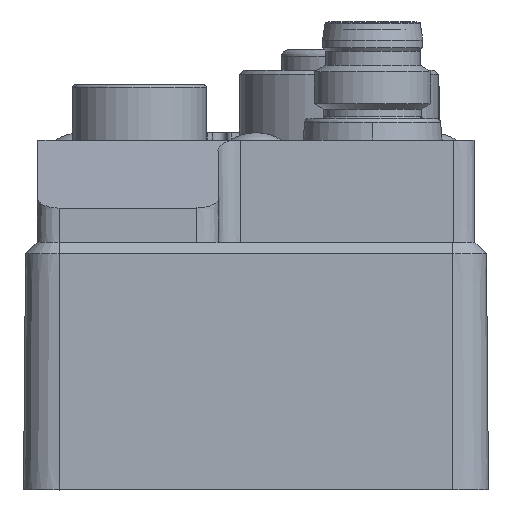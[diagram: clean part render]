
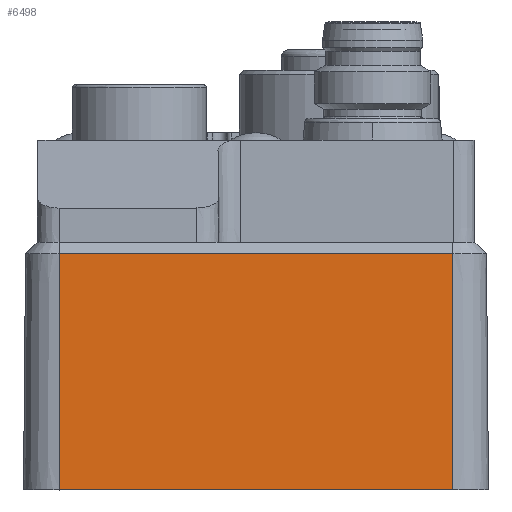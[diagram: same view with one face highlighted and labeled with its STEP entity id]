
A CAD part, front view. The second image highlights one B-rep face of the part: STEP entity #6498.
In plain terms, the highlighted planar face has unit normal (0, -1, 0.009).
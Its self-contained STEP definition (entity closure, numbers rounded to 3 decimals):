
#419 = CARTESIAN_POINT ( 'NONE',  ( 20., 0.142, 16.215 ) ) ;
#437 = VECTOR ( 'NONE', #10021, 1000. ) ;
#504 = VERTEX_POINT ( 'NONE', #8305 ) ;
#594 = EDGE_CURVE ( 'NONE', #17205, #13681, #14674, .T. ) ;
#622 = VECTOR ( 'NONE', #2506, 1000. ) ;
#634 = ORIENTED_EDGE ( 'NONE', *, *, #16571, .F. ) ;
#1091 = VECTOR ( 'NONE', #3012, 1000. ) ;
#2506 = DIRECTION ( 'NONE',  ( 0., -0.009, -1. ) ) ;
#3012 = DIRECTION ( 'NONE',  ( 0., 0.009, 1. ) ) ;
#3164 = LINE ( 'NONE', #9510, #622 ) ;
#4090 = EDGE_CURVE ( 'NONE', #17205, #17188, #4387, .T. ) ;
#4387 = LINE ( 'NONE', #7714, #13297 ) ;
#4391 = DIRECTION ( 'NONE',  ( 0., 1., -0.009 ) ) ;
#4847 = CARTESIAN_POINT ( 'NONE',  ( 20., 0.142, 16.215 ) ) ;
#4907 = LINE ( 'NONE', #4847, #437 ) ;
#5352 = ORIENTED_EDGE ( 'NONE', *, *, #594, .F. ) ;
#5427 = FACE_OUTER_BOUND ( 'NONE', #5471, .T. ) ;
#5471 = EDGE_LOOP ( 'NONE', ( #5352, #14627, #12293, #634 ) ) ;
#5759 = PLANE ( 'NONE',  #15190 ) ;
#6353 = CARTESIAN_POINT ( 'NONE',  ( -13.5, 0., 0. ) ) ;
#6498 = ADVANCED_FACE ( 'NONE', ( #5427 ), #5759, .F. ) ;
#7714 = CARTESIAN_POINT ( 'NONE',  ( 15.948, 0., 0. ) ) ;
#8305 = CARTESIAN_POINT ( 'NONE',  ( 13.5, 0.142, 16.215 ) ) ;
#9039 = CARTESIAN_POINT ( 'NONE',  ( 13.5, 0., 0. ) ) ;
#9510 = CARTESIAN_POINT ( 'NONE',  ( 13.5, -4354.707, -499000. ) ) ;
#10021 = DIRECTION ( 'NONE',  ( 1., 0., 0. ) ) ;
#11426 = CARTESIAN_POINT ( 'NONE',  ( -13.5, 0.142, 16.215 ) ) ;
#11501 = EDGE_CURVE ( 'NONE', #504, #17188, #3164, .T. ) ;
#12293 = ORIENTED_EDGE ( 'NONE', *, *, #11501, .F. ) ;
#12693 = DIRECTION ( 'NONE',  ( 0., 0.009, 1. ) ) ;
#13106 = DIRECTION ( 'NONE',  ( 1., 0., 0. ) ) ;
#13297 = VECTOR ( 'NONE', #13106, 1000. ) ;
#13681 = VERTEX_POINT ( 'NONE', #11426 ) ;
#14627 = ORIENTED_EDGE ( 'NONE', *, *, #4090, .T. ) ;
#14674 = LINE ( 'NONE', #16728, #1091 ) ;
#15190 = AXIS2_PLACEMENT_3D ( 'NONE', #419, #4391, #12693 ) ;
#16571 = EDGE_CURVE ( 'NONE', #13681, #504, #4907, .T. ) ;
#16728 = CARTESIAN_POINT ( 'NONE',  ( -13.5, 0.142, 16.215 ) ) ;
#17188 = VERTEX_POINT ( 'NONE', #9039 ) ;
#17205 = VERTEX_POINT ( 'NONE', #6353 ) ;
